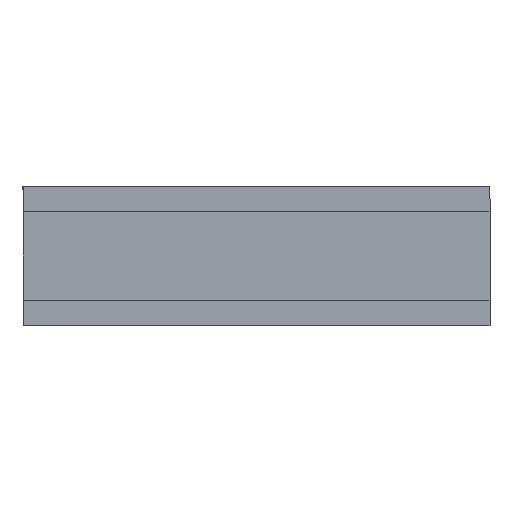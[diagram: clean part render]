
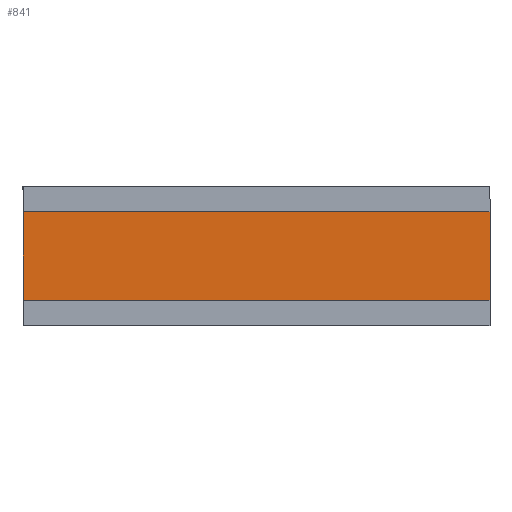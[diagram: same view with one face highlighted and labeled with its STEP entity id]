
A CAD part, left-side view. The second image highlights one B-rep face of the part: STEP entity #841.
In plain terms, the highlighted planar face has unit normal (-1, 0, 0).
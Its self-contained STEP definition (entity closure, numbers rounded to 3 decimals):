
#44 = PLANE('',#45);
#45 = AXIS2_PLACEMENT_3D('',#46,#47,#48);
#46 = CARTESIAN_POINT('',(0.,0.,-2.));
#47 = DIRECTION('',(0.,-1.,0.));
#48 = DIRECTION('',(0.,0.,1.));
#100 = PLANE('',#101);
#101 = AXIS2_PLACEMENT_3D('',#102,#103,#104);
#102 = CARTESIAN_POINT('',(0.,275.,80.));
#103 = DIRECTION('',(0.,1.,0.));
#104 = DIRECTION('',(0.,0.,-1.));
#126 = PLANE('',#127);
#127 = AXIS2_PLACEMENT_3D('',#128,#129,#130);
#128 = CARTESIAN_POINT('',(0.,275.,65.));
#129 = DIRECTION('',(0.,0.,-1.));
#130 = DIRECTION('',(0.,-1.,0.));
#278 = VERTEX_POINT('',#279);
#279 = CARTESIAN_POINT('',(2.,0.,65.));
#300 = EDGE_CURVE('',#278,#301,#303,.T.);
#301 = VERTEX_POINT('',#302);
#302 = CARTESIAN_POINT('',(2.,0.,13.));
#303 = SURFACE_CURVE('',#304,(#308,#315),.PCURVE_S1.);
#304 = LINE('',#305,#306);
#305 = CARTESIAN_POINT('',(2.,0.,65.));
#306 = VECTOR('',#307,1.);
#307 = DIRECTION('',(0.,0.,-1.));
#308 = PCURVE('',#44,#309);
#309 = DEFINITIONAL_REPRESENTATION('',(#310),#314);
#310 = LINE('',#311,#312);
#311 = CARTESIAN_POINT('',(67.,-2.));
#312 = VECTOR('',#313,1.);
#313 = DIRECTION('',(-1.,0.));
#314 = ( GEOMETRIC_REPRESENTATION_CONTEXT(2) 
PARAMETRIC_REPRESENTATION_CONTEXT() REPRESENTATION_CONTEXT('2D SPACE',''
  ) );
#315 = PCURVE('',#316,#321);
#316 = PLANE('',#317);
#317 = AXIS2_PLACEMENT_3D('',#318,#319,#320);
#318 = CARTESIAN_POINT('',(2.,137.5,39.));
#319 = DIRECTION('',(1.,0.,0.));
#320 = DIRECTION('',(0.,1.,0.));
#321 = DEFINITIONAL_REPRESENTATION('',(#322),#326);
#322 = LINE('',#323,#324);
#323 = CARTESIAN_POINT('',(-137.5,26.));
#324 = VECTOR('',#325,1.);
#325 = DIRECTION('',(0.,-1.));
#326 = ( GEOMETRIC_REPRESENTATION_CONTEXT(2) 
PARAMETRIC_REPRESENTATION_CONTEXT() REPRESENTATION_CONTEXT('2D SPACE',''
  ) );
#342 = PLANE('',#343);
#343 = AXIS2_PLACEMENT_3D('',#344,#345,#346);
#344 = CARTESIAN_POINT('',(0.,0.,13.));
#345 = DIRECTION('',(0.,0.,1.));
#346 = DIRECTION('',(0.,1.,0.));
#358 = VERTEX_POINT('',#359);
#359 = CARTESIAN_POINT('',(2.,275.,65.));
#380 = EDGE_CURVE('',#358,#278,#381,.T.);
#381 = SURFACE_CURVE('',#382,(#386,#393),.PCURVE_S1.);
#382 = LINE('',#383,#384);
#383 = CARTESIAN_POINT('',(2.,275.,65.));
#384 = VECTOR('',#385,1.);
#385 = DIRECTION('',(0.,-1.,0.));
#386 = PCURVE('',#126,#387);
#387 = DEFINITIONAL_REPRESENTATION('',(#388),#392);
#388 = LINE('',#389,#390);
#389 = CARTESIAN_POINT('',(0.,-2.));
#390 = VECTOR('',#391,1.);
#391 = DIRECTION('',(1.,0.));
#392 = ( GEOMETRIC_REPRESENTATION_CONTEXT(2) 
PARAMETRIC_REPRESENTATION_CONTEXT() REPRESENTATION_CONTEXT('2D SPACE',''
  ) );
#393 = PCURVE('',#316,#394);
#394 = DEFINITIONAL_REPRESENTATION('',(#395),#399);
#395 = LINE('',#396,#397);
#396 = CARTESIAN_POINT('',(137.5,26.));
#397 = VECTOR('',#398,1.);
#398 = DIRECTION('',(-1.,0.));
#399 = ( GEOMETRIC_REPRESENTATION_CONTEXT(2) 
PARAMETRIC_REPRESENTATION_CONTEXT() REPRESENTATION_CONTEXT('2D SPACE',''
  ) );
#556 = VERTEX_POINT('',#557);
#557 = CARTESIAN_POINT('',(2.,275.,13.));
#578 = EDGE_CURVE('',#556,#358,#579,.T.);
#579 = SURFACE_CURVE('',#580,(#584,#591),.PCURVE_S1.);
#580 = LINE('',#581,#582);
#581 = CARTESIAN_POINT('',(2.,275.,13.));
#582 = VECTOR('',#583,1.);
#583 = DIRECTION('',(0.,0.,1.));
#584 = PCURVE('',#100,#585);
#585 = DEFINITIONAL_REPRESENTATION('',(#586),#590);
#586 = LINE('',#587,#588);
#587 = CARTESIAN_POINT('',(67.,-2.));
#588 = VECTOR('',#589,1.);
#589 = DIRECTION('',(-1.,0.));
#590 = ( GEOMETRIC_REPRESENTATION_CONTEXT(2) 
PARAMETRIC_REPRESENTATION_CONTEXT() REPRESENTATION_CONTEXT('2D SPACE',''
  ) );
#591 = PCURVE('',#316,#592);
#592 = DEFINITIONAL_REPRESENTATION('',(#593),#597);
#593 = LINE('',#594,#595);
#594 = CARTESIAN_POINT('',(137.5,-26.));
#595 = VECTOR('',#596,1.);
#596 = DIRECTION('',(0.,1.));
#597 = ( GEOMETRIC_REPRESENTATION_CONTEXT(2) 
PARAMETRIC_REPRESENTATION_CONTEXT() REPRESENTATION_CONTEXT('2D SPACE',''
  ) );
#738 = EDGE_CURVE('',#301,#556,#739,.T.);
#739 = SURFACE_CURVE('',#740,(#744,#751),.PCURVE_S1.);
#740 = LINE('',#741,#742);
#741 = CARTESIAN_POINT('',(2.,0.,13.));
#742 = VECTOR('',#743,1.);
#743 = DIRECTION('',(0.,1.,0.));
#744 = PCURVE('',#342,#745);
#745 = DEFINITIONAL_REPRESENTATION('',(#746),#750);
#746 = LINE('',#747,#748);
#747 = CARTESIAN_POINT('',(0.,-2.));
#748 = VECTOR('',#749,1.);
#749 = DIRECTION('',(1.,0.));
#750 = ( GEOMETRIC_REPRESENTATION_CONTEXT(2) 
PARAMETRIC_REPRESENTATION_CONTEXT() REPRESENTATION_CONTEXT('2D SPACE',''
  ) );
#751 = PCURVE('',#316,#752);
#752 = DEFINITIONAL_REPRESENTATION('',(#753),#757);
#753 = LINE('',#754,#755);
#754 = CARTESIAN_POINT('',(-137.5,-26.));
#755 = VECTOR('',#756,1.);
#756 = DIRECTION('',(1.,0.));
#757 = ( GEOMETRIC_REPRESENTATION_CONTEXT(2) 
PARAMETRIC_REPRESENTATION_CONTEXT() REPRESENTATION_CONTEXT('2D SPACE',''
  ) );
#841 = ADVANCED_FACE('',(#842),#316,.F.);
#842 = FACE_BOUND('',#843,.F.);
#843 = EDGE_LOOP('',(#844,#845,#846,#847));
#844 = ORIENTED_EDGE('',*,*,#738,.T.);
#845 = ORIENTED_EDGE('',*,*,#578,.T.);
#846 = ORIENTED_EDGE('',*,*,#380,.T.);
#847 = ORIENTED_EDGE('',*,*,#300,.T.);
